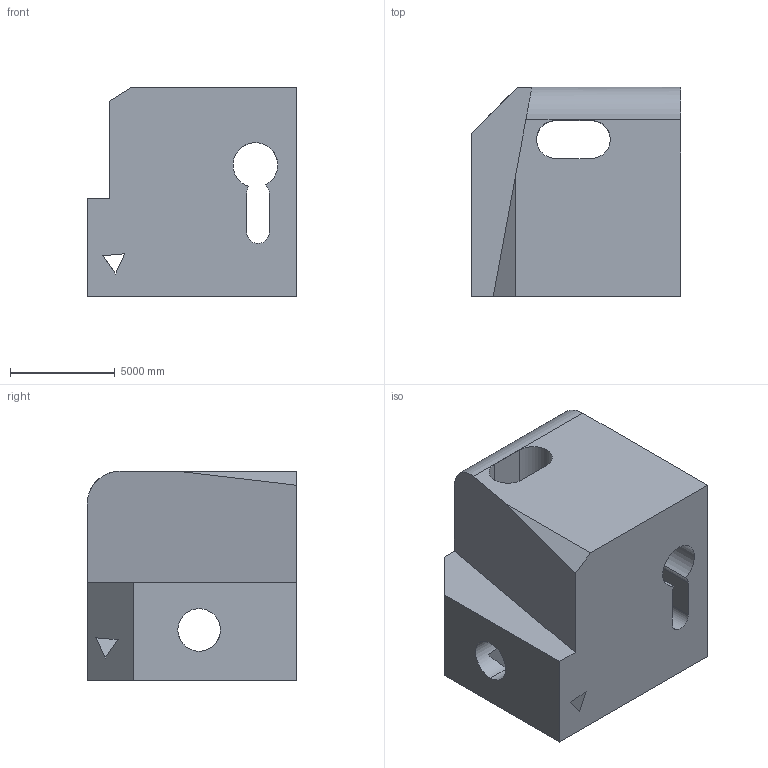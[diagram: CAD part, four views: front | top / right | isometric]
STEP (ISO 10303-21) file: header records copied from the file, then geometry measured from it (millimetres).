
FILE_DESCRIPTION (( 'STEP AP203' ), '1' );
FILE_NAME ('950.STEP', '2022-07-29T14:36:23', ( 'user' ), ( '' ), 'SwSTEP 2.0', 'SolidWorks 2021', '' );
FILE_SCHEMA (( 'CONFIG_CONTROL_DESIGN' ));
Length unit declared in the file: centimetre
Products named in the file (1): 950
Bounding box: 10000 x 10000 x 10000 mm (x, y, z)
Volume: 714545574707.4 mm3; surface area: 840465545.7 mm2
Topology: 1 solids, 1 shells, 37 faces, 117 edges, 78 vertices
Faces by surface type: plane 21, cylinder 16
Entity records: 2273 total; most frequent: CARTESIAN_POINT 1130, ORIENTED_EDGE 234, DIRECTION 211, EDGE_CURVE 117, VERTEX_POINT 78, AXIS2_PLACEMENT_3D 71, VECTOR 69, LINE 69
